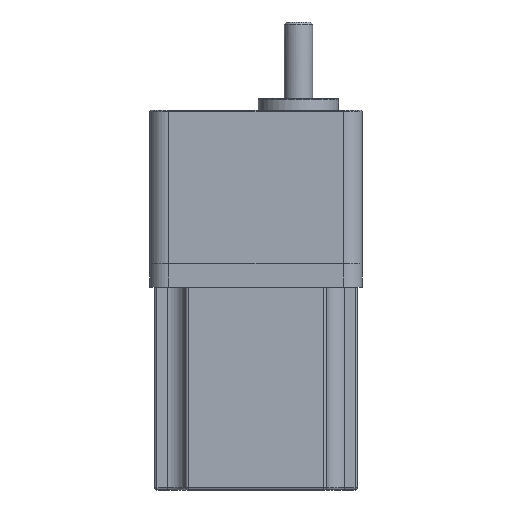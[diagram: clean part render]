
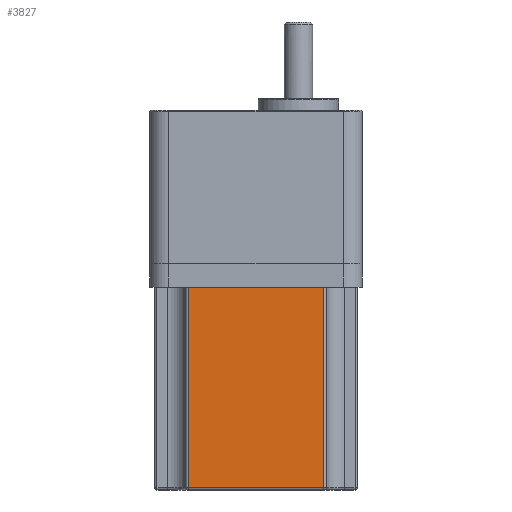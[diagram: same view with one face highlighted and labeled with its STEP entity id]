
A CAD part, front view. The second image highlights one B-rep face of the part: STEP entity #3827.
In plain terms, the highlighted planar face has unit normal (0, -1, 0).
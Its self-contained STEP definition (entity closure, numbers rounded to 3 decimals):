
#32 = CARTESIAN_POINT ( 'NONE',  ( 47.087, -54.139, 146.75 ) ) ;
#284 = VECTOR ( 'NONE', #4978, 1000. ) ;
#299 = LINE ( 'NONE', #5039, #284 ) ;
#398 = EDGE_CURVE ( 'NONE', #4949, #1985, #3267, .T. ) ;
#522 = DIRECTION ( 'NONE',  ( -1., 0., 0. ) ) ;
#537 = DIRECTION ( 'NONE',  ( 0., 1., 0. ) ) ;
#653 = CARTESIAN_POINT ( 'NONE',  ( 47.087, -54.139, 60.75 ) ) ;
#832 = EDGE_CURVE ( 'NONE', #1562, #4949, #1865, .T. ) ;
#1334 = EDGE_CURVE ( 'NONE', #1562, #4319, #299, .T. ) ;
#1562 = VERTEX_POINT ( 'NONE', #3934 ) ;
#1775 = CARTESIAN_POINT ( 'NONE',  ( 47.087, -54.139, 61.75 ) ) ;
#1797 = VECTOR ( 'NONE', #2056, 1000. ) ;
#1865 = LINE ( 'NONE', #1775, #1797 ) ;
#1985 = VERTEX_POINT ( 'NONE', #32 ) ;
#2026 = CARTESIAN_POINT ( 'NONE',  ( 47.087, -54.139, 61.75 ) ) ;
#2056 = DIRECTION ( 'NONE',  ( 1., 0., 0. ) ) ;
#2324 = EDGE_CURVE ( 'NONE', #1985, #4319, #4807, .T. ) ;
#2898 = AXIS2_PLACEMENT_3D ( 'NONE', #653, #537, #522 ) ;
#3101 = ORIENTED_EDGE ( 'NONE', *, *, #398, .T. ) ;
#3190 = VECTOR ( 'NONE', #4643, 1000. ) ;
#3267 = LINE ( 'NONE', #4882, #3190 ) ;
#3411 = PLANE ( 'NONE',  #2898 ) ;
#3550 = ORIENTED_EDGE ( 'NONE', *, *, #832, .T. ) ;
#3827 = ADVANCED_FACE ( 'NONE', ( #5171 ), #3411, .F. ) ;
#3934 = CARTESIAN_POINT ( 'NONE',  ( -10.357, -54.139, 61.75 ) ) ;
#4140 = EDGE_LOOP ( 'NONE', ( #4864, #3550, #3101, #4420 ) ) ;
#4292 = DIRECTION ( 'NONE',  ( -1., 0., 0. ) ) ;
#4319 = VERTEX_POINT ( 'NONE', #5149 ) ;
#4415 = CARTESIAN_POINT ( 'NONE',  ( 47.087, -54.139, 146.75 ) ) ;
#4420 = ORIENTED_EDGE ( 'NONE', *, *, #2324, .T. ) ;
#4643 = DIRECTION ( 'NONE',  ( 0., 0., 1. ) ) ;
#4743 = VECTOR ( 'NONE', #4292, 1000. ) ;
#4807 = LINE ( 'NONE', #4415, #4743 ) ;
#4864 = ORIENTED_EDGE ( 'NONE', *, *, #1334, .F. ) ;
#4882 = CARTESIAN_POINT ( 'NONE',  ( 47.087, -54.139, 60.75 ) ) ;
#4949 = VERTEX_POINT ( 'NONE', #2026 ) ;
#4978 = DIRECTION ( 'NONE',  ( 0., 0., 1. ) ) ;
#5039 = CARTESIAN_POINT ( 'NONE',  ( -10.357, -54.139, 60.75 ) ) ;
#5149 = CARTESIAN_POINT ( 'NONE',  ( -10.357, -54.139, 146.75 ) ) ;
#5171 = FACE_OUTER_BOUND ( 'NONE', #4140, .T. ) ;
